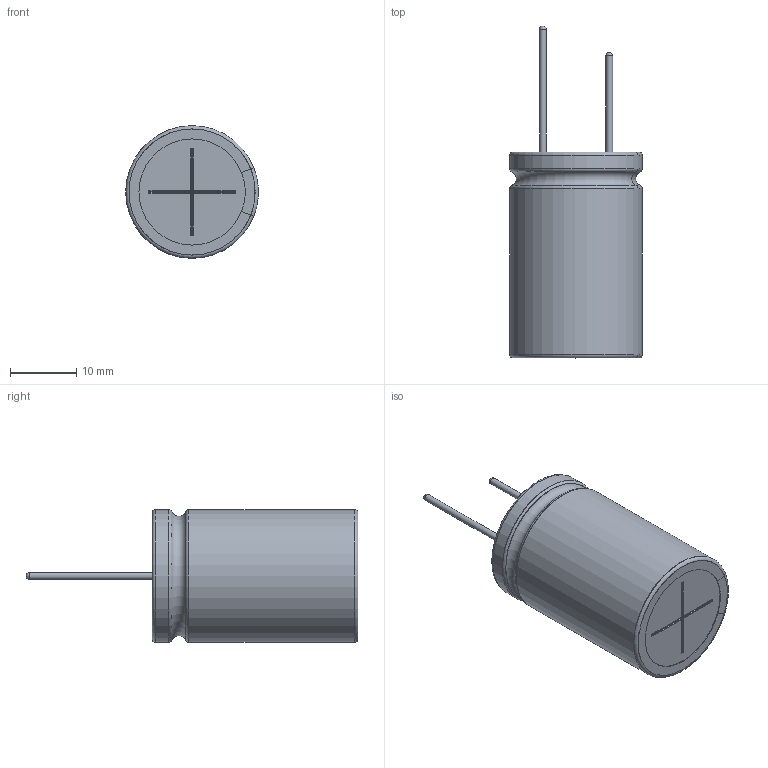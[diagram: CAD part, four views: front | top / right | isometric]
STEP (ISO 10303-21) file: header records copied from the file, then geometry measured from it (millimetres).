
FILE_DESCRIPTION(/* description */ (''),/* implementation_level */ '2;1');
FILE_NAME(/* name */ '20x31_Lead.stp',/* time_stamp */ '2017-09-06T15:13:13+09:00',/* author */ (''),/* organization */ (''),/* preprocessor_version */ 'ST-DEVELOPER v16',/* originating_system */ 'SIEMENS PLM Software NX 11.0',/* authorisation */ '');
FILE_SCHEMA (('AUTOMOTIVE_DESIGN { 1 0 10303 214 3 1 1 1 }'));
Length unit declared in the file: millimetre
Products named in the file (1): 20x31_Lead_0
Bounding box: 19.97 x 50 x 20 mm (x, y, z)
Volume: 9631.8 mm3; surface area: 7013.7 mm2
Topology: 3 solids, 3 shells, 100 faces, 252 edges, 160 vertices
Faces by surface type: cylinder 36, plane 28, torus 26, sphere 6, bspline 4
Full cylindrical faces by diameter (mm): 1 x2, 19.8 x2
Entity records: 3386 total; most frequent: CARTESIAN_POINT 605, DIRECTION 566, ORIENTED_EDGE 468, AXIS2_PLACEMENT_3D 235, EDGE_CURVE 234, VERTEX_POINT 154, CIRCLE 130, EDGE_LOOP 114
